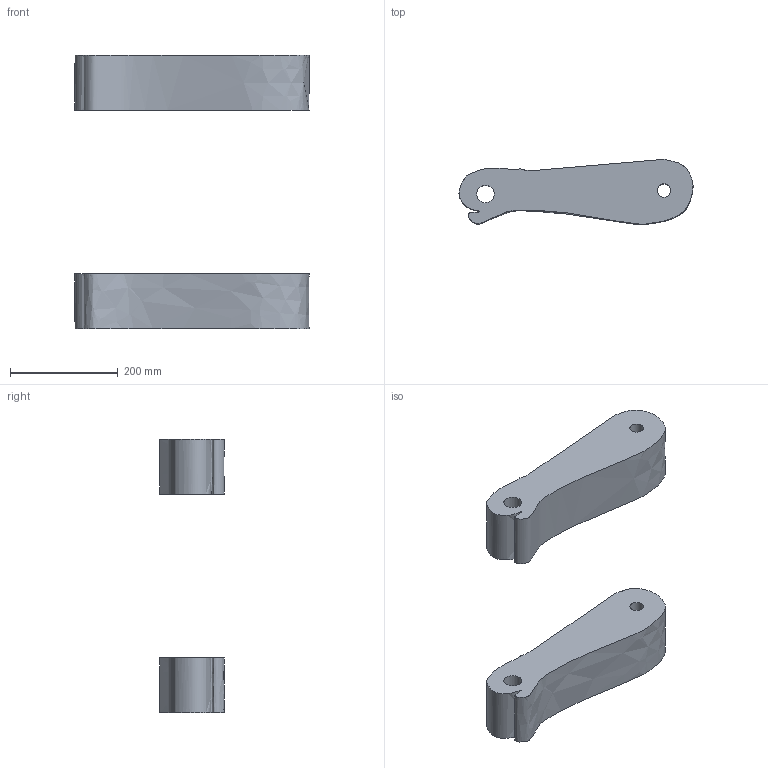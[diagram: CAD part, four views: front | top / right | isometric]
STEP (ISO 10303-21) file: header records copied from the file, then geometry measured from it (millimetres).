
FILE_DESCRIPTION(/* description */ ('Alibre Inc.'),/* implementation_level */ '2;1');
FILE_NAME(/* name */ 'export0',/* time_stamp */ '2007-03-23T19:17:11-07:00',/* author */ (''),/* organization */ (''),/* preprocessor_version */ 'ST-DEVELOPER v10',/* originating_system */ 'Alibre',/* authorisation */ '');
FILE_SCHEMA (('ALIBRE_SCHEMA','CONFIG_CONTROL_DESIGN'));
Length unit declared in the file: centimetre
Products named in the file (1): ID_1
Bounding box: 435.47 x 120.64 x 508 mm (x, y, z)
Volume: 5727371.8 mm3; surface area: 401040.1 mm2
Topology: 2 solids, 2 shells, 10 faces, 22 edges, 16 vertices
Faces by surface type: plane 4, cylinder 4, bspline 2
Full cylindrical faces by diameter (mm): 25.225 x2, 33.019 x2
Entity records: 1274 total; most frequent: CARTESIAN_POINT 579, DIRECTION 52, PERSISTANTTOPOLOGYATTRIBUTE 40, INTEGERVALUEPAIR 29, ORIENTED_EDGE 28, EDGE_LOOP 22, FACE_BOUND 22, REFERENCEDEPENDENTUV 22
